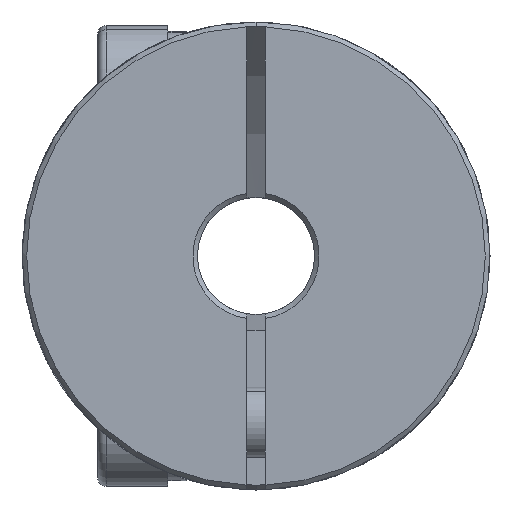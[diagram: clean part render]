
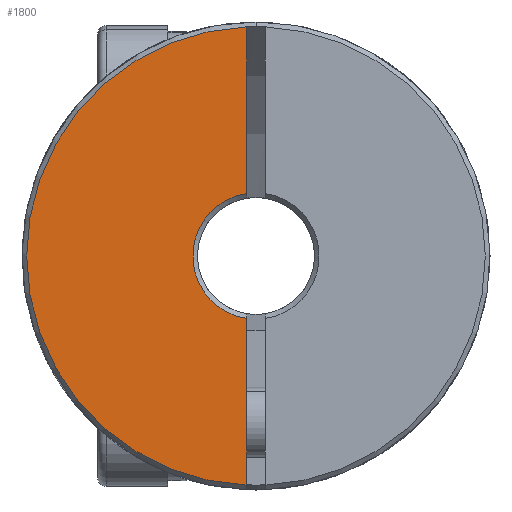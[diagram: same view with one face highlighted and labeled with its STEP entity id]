
A CAD part, front view. The second image highlights one B-rep face of the part: STEP entity #1800.
In plain terms, the highlighted planar face has unit normal (0, -1, 0).
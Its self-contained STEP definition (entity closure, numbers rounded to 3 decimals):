
#17 = DIRECTION ( 'NONE',  ( 0., 1., 0. ) ) ;
#409 = CIRCLE ( 'NONE', #6995, 2.7 ) ;
#605 = CIRCLE ( 'NONE', #5984, 9.8 ) ;
#672 = DIRECTION ( 'NONE',  ( 0., 0., -1. ) ) ;
#742 = CARTESIAN_POINT ( 'NONE',  ( -0.4, -17.5, 0. ) ) ;
#745 = ORIENTED_EDGE ( 'NONE', *, *, #6785, .T. ) ;
#820 = CARTESIAN_POINT ( 'NONE',  ( -0.4, -17.5, 0. ) ) ;
#863 = DIRECTION ( 'NONE',  ( 0., 0., 1. ) ) ;
#1123 = CARTESIAN_POINT ( 'NONE',  ( 0., -17.5, 0. ) ) ;
#1217 = PLANE ( 'NONE',  #2588 ) ;
#1470 = CARTESIAN_POINT ( 'NONE',  ( -0.4, -17.5, 9.792 ) ) ;
#1613 = ORIENTED_EDGE ( 'NONE', *, *, #7410, .F. ) ;
#1800 = ADVANCED_FACE ( 'NONE', ( #6822 ), #1217, .F. ) ;
#2244 = CARTESIAN_POINT ( 'NONE',  ( -0.4, -17.5, -9.792 ) ) ;
#2373 = VECTOR ( 'NONE', #672, 1000. ) ;
#2487 = EDGE_CURVE ( 'NONE', #7374, #7134, #6106, .T. ) ;
#2588 = AXIS2_PLACEMENT_3D ( 'NONE', #1123, #17, #2984 ) ;
#2591 = CARTESIAN_POINT ( 'NONE',  ( 0., -17.5, 0. ) ) ;
#2818 = VECTOR ( 'NONE', #5587, 1000. ) ;
#2971 = CARTESIAN_POINT ( 'NONE',  ( -0.4, -17.5, 2.67 ) ) ;
#2984 = DIRECTION ( 'NONE',  ( 0., 0., 1. ) ) ;
#3253 = DIRECTION ( 'NONE',  ( 0., 0., 1. ) ) ;
#3922 = LINE ( 'NONE', #742, #2373 ) ;
#4697 = ORIENTED_EDGE ( 'NONE', *, *, #2487, .F. ) ;
#4884 = VERTEX_POINT ( 'NONE', #2244 ) ;
#5347 = EDGE_LOOP ( 'NONE', ( #4697, #6551, #1613, #745 ) ) ;
#5587 = DIRECTION ( 'NONE',  ( 0., 0., -1. ) ) ;
#5715 = EDGE_CURVE ( 'NONE', #7374, #4884, #605, .T. ) ;
#5984 = AXIS2_PLACEMENT_3D ( 'NONE', #2591, #6631, #863 ) ;
#6106 = LINE ( 'NONE', #820, #2818 ) ;
#6551 = ORIENTED_EDGE ( 'NONE', *, *, #5715, .T. ) ;
#6631 = DIRECTION ( 'NONE',  ( 0., -1., 0. ) ) ;
#6661 = CARTESIAN_POINT ( 'NONE',  ( 0., -17.5, 0. ) ) ;
#6686 = DIRECTION ( 'NONE',  ( 0., 1., 0. ) ) ;
#6785 = EDGE_CURVE ( 'NONE', #7511, #7134, #409, .T. ) ;
#6822 = FACE_OUTER_BOUND ( 'NONE', #5347, .T. ) ;
#6995 = AXIS2_PLACEMENT_3D ( 'NONE', #6661, #6686, #3253 ) ;
#7134 = VERTEX_POINT ( 'NONE', #2971 ) ;
#7284 = CARTESIAN_POINT ( 'NONE',  ( -0.4, -17.5, -2.67 ) ) ;
#7374 = VERTEX_POINT ( 'NONE', #1470 ) ;
#7410 = EDGE_CURVE ( 'NONE', #7511, #4884, #3922, .T. ) ;
#7511 = VERTEX_POINT ( 'NONE', #7284 ) ;
